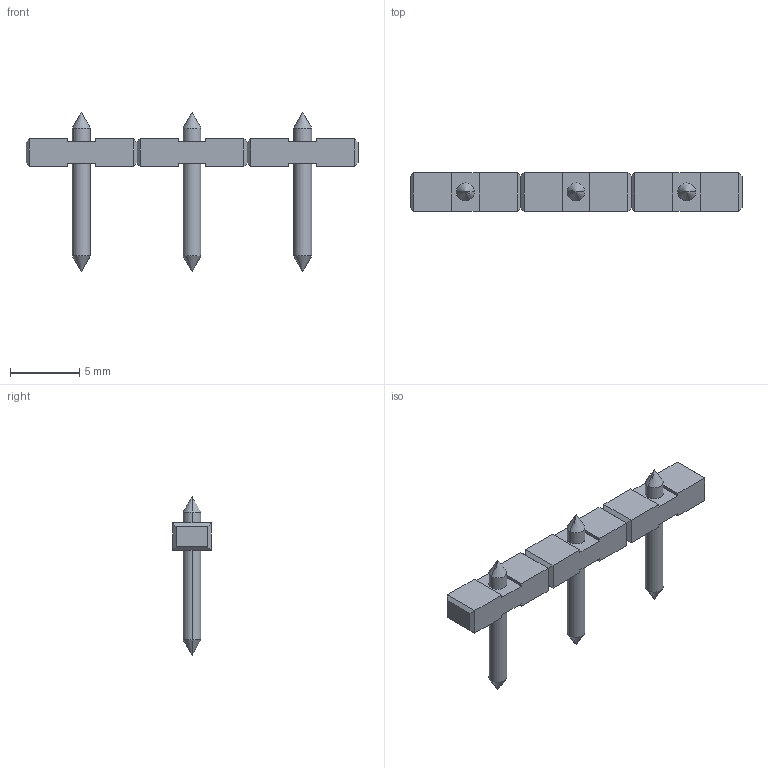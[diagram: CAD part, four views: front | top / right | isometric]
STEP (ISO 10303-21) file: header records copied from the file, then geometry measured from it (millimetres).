
FILE_DESCRIPTION((''),'2;1');
FILE_NAME('333','2019-04-11T',('zhenbing.lai'),(''),'CREO PARAMETRIC BY PTC INC, 2016260','CREO PARAMETRIC BY PTC INC, 2016260','');
FILE_SCHEMA(('CONFIG_CONTROL_DESIGN'));
Length unit declared in the file: millimetre
Products named in the file (1): 333
Bounding box: 24 x 2.8 x 11.5 mm (x, y, z)
Volume: 158.9 mm3; surface area: 345.4 mm2
Topology: 1 solids, 1 shells, 86 faces, 208 edges, 118 vertices
Faces by surface type: plane 62, cylinder 12, cone 12
Entity records: 2378 total; most frequent: CARTESIAN_POINT 400, DIRECTION 392, ORIENTED_EDGE 392, EDGE_CURVE 196, VECTOR 172, LINE 172, VERTEX_POINT 118, AXIS2_PLACEMENT_3D 110
